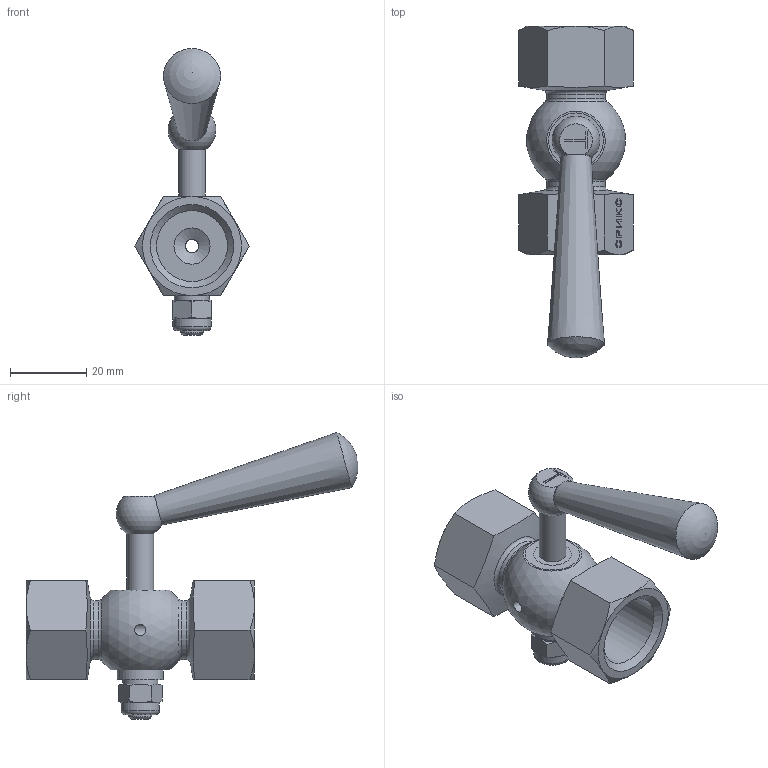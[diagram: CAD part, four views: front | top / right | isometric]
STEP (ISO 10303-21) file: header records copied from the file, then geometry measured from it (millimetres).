
FILE_DESCRIPTION(('STEP AP242'), '1');
FILE_NAME('Ê.830.00 - Êðàí äëÿ ìàíîìåòðà òðåõõîäîâîé DN15 PN16', '', ('UNSPECIFIED'), ('UNSPECIFIED'), 'C3D Converter', 'C3D Toolkit', '');
FILE_SCHEMA(('AP242_MANAGED_MODEL_BASED_3D_ENGINEERING_MIM_LF { 1 0 10303 442 1 1 4 }'));
Length unit declared in the file: millimetre
Products named in the file (8): К.830.00-01; К.830.01-01; К.830.02; К.830.03; К.830.04; Шпилька DIN 975-М10х30-8.8
Assembly tree (7 placements, depth 2):
  К.830.00-01
    К.830.01-01
    К.830.02
    К.830.03
    К.830.04
    (unnamed)
    (unnamed)
    Шпилька DIN 975-М10х30-8.8
Bounding box: 30.02 x 87.2 x 75.38 mm (x, y, z)
Volume: 28013.9 mm3; surface area: 16263.7 mm2
Topology: 8 solids, 8 shells, 443 faces, 1185 edges, 787 vertices
Faces by surface type: plane 185, extrusion 173, cone 44, cylinder 33, torus 5, sphere 3
Full cylindrical faces by diameter (mm): 3 x3, 3.5 x5, 4.917 x2, 6 x4, 7 x1, 9 x1, 9.5 x2, 10 x1, 12 x1, 15.5 x2, 18.632 x2
Entity records: 18735 total; most frequent: CARTESIAN_POINT 8078, ORIENTED_EDGE 2200, DIRECTION 1547, EDGE_CURVE 1100, VERTEX_POINT 748, VECTOR 731, B_SPLINE_CURVE_WITH_KNOTS 607, LINE 558
